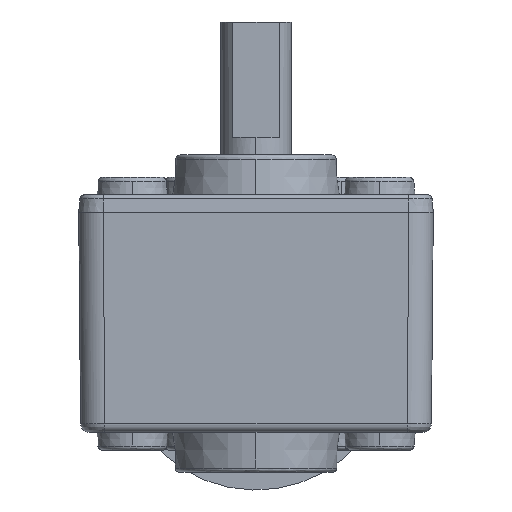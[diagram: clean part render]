
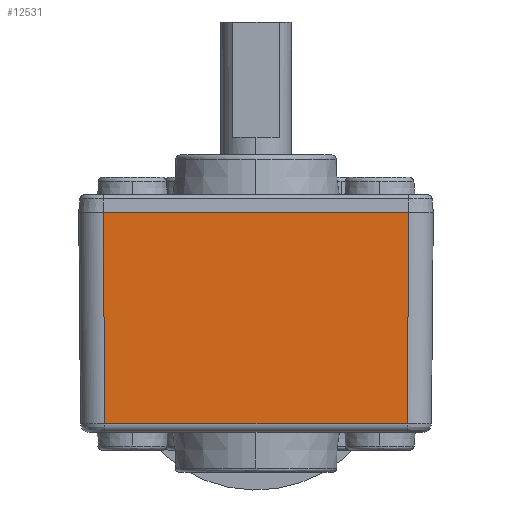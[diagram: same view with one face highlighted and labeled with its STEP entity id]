
A CAD part, left-side view. The second image highlights one B-rep face of the part: STEP entity #12531.
In plain terms, the highlighted planar face has unit normal (-1, 0, -0.009).
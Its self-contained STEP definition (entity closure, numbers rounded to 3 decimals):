
#839 = PLANE ( 'NONE',  #7228 ) ;
#883 = VECTOR ( 'NONE', #2912, 1000. ) ;
#1017 = VECTOR ( 'NONE', #8093, 1000. ) ;
#1203 = ORIENTED_EDGE ( 'NONE', *, *, #1945, .F. ) ;
#1935 = CARTESIAN_POINT ( 'NONE',  ( -29.1, 17.25, -2.003 ) ) ;
#1945 = EDGE_CURVE ( 'NONE', #13475, #10584, #7934, .T. ) ;
#2047 = DIRECTION ( 'NONE',  ( 0.009, 0., -1. ) ) ;
#2391 = CARTESIAN_POINT ( 'NONE',  ( -29.099, -17.249, -2.154 ) ) ;
#2912 = DIRECTION ( 'NONE',  ( -0.009, 0.009, 1. ) ) ;
#2959 = VERTEX_POINT ( 'NONE', #1935 ) ;
#3173 = CARTESIAN_POINT ( 'NONE',  ( -29.1, 0., -2.003 ) ) ;
#3438 = DIRECTION ( 'NONE',  ( 0., -1., 0. ) ) ;
#5319 = ORIENTED_EDGE ( 'NONE', *, *, #5558, .F. ) ;
#5558 = EDGE_CURVE ( 'NONE', #10750, #2959, #13186, .T. ) ;
#5700 = LINE ( 'NONE', #13808, #7481 ) ;
#6735 = CARTESIAN_POINT ( 'NONE',  ( -29.1, 0., -2.003 ) ) ;
#7228 = AXIS2_PLACEMENT_3D ( 'NONE', #3173, #12335, #2047 ) ;
#7481 = VECTOR ( 'NONE', #14713, 1000. ) ;
#7934 = LINE ( 'NONE', #2391, #1017 ) ;
#8093 = DIRECTION ( 'NONE',  ( 0.009, 0.009, -1. ) ) ;
#9356 = CARTESIAN_POINT ( 'NONE',  ( -28.892, -17.042, -25.812 ) ) ;
#10402 = VECTOR ( 'NONE', #3438, 1000. ) ;
#10584 = VERTEX_POINT ( 'NONE', #9356 ) ;
#10750 = VERTEX_POINT ( 'NONE', #14057 ) ;
#10811 = ORIENTED_EDGE ( 'NONE', *, *, #12918, .F. ) ;
#10993 = EDGE_LOOP ( 'NONE', ( #10811, #1203, #13722, #5319 ) ) ;
#11252 = LINE ( 'NONE', #6735, #10402 ) ;
#12335 = DIRECTION ( 'NONE',  ( 1., 0., 0.009 ) ) ;
#12531 = ADVANCED_FACE ( 'NONE', ( #13457 ), #839, .F. ) ;
#12866 = CARTESIAN_POINT ( 'NONE',  ( -29.1, -17.25, -2.003 ) ) ;
#12918 = EDGE_CURVE ( 'NONE', #10584, #10750, #5700, .T. ) ;
#13186 = LINE ( 'NONE', #13265, #883 ) ;
#13265 = CARTESIAN_POINT ( 'NONE',  ( -28.892, 17.042, -25.812 ) ) ;
#13457 = FACE_OUTER_BOUND ( 'NONE', #10993, .T. ) ;
#13475 = VERTEX_POINT ( 'NONE', #12866 ) ;
#13722 = ORIENTED_EDGE ( 'NONE', *, *, #14370, .F. ) ;
#13808 = CARTESIAN_POINT ( 'NONE',  ( -28.892, 0., -25.812 ) ) ;
#14057 = CARTESIAN_POINT ( 'NONE',  ( -28.892, 17.042, -25.812 ) ) ;
#14370 = EDGE_CURVE ( 'NONE', #2959, #13475, #11252, .T. ) ;
#14713 = DIRECTION ( 'NONE',  ( 0., 1., 0. ) ) ;
